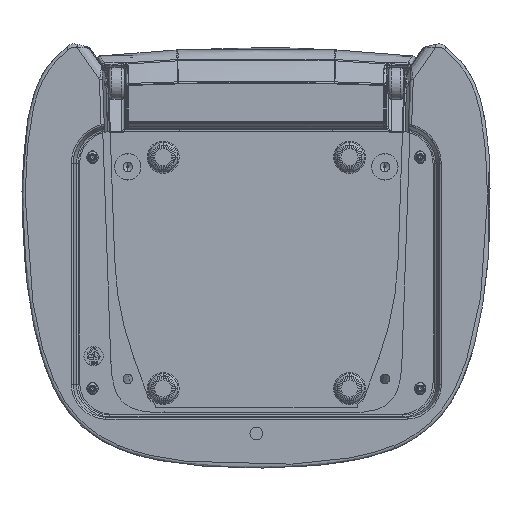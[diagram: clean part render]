
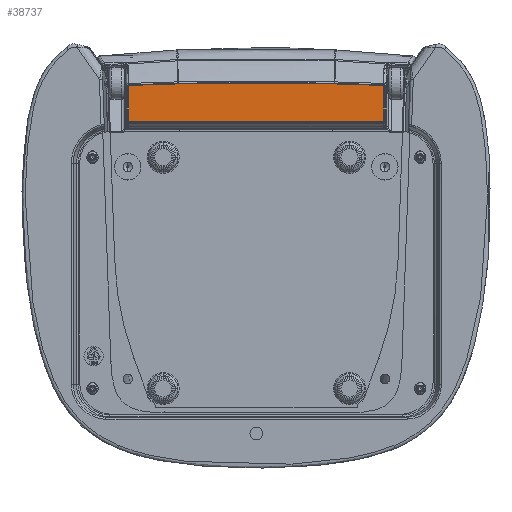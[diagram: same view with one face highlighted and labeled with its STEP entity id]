
A CAD part, front view. The second image highlights one B-rep face of the part: STEP entity #38737.
In plain terms, the highlighted planar face has unit normal (0, -1, 0).
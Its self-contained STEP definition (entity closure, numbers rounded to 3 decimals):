
#183 = VERTEX_POINT ( 'NONE', #42213 ) ;
#1979 = CARTESIAN_POINT ( 'NONE',  ( 198.5, 5., 195.864 ) ) ;
#7015 = CARTESIAN_POINT ( 'NONE',  ( -198.5, 5., 107.539 ) ) ;
#8558 = CARTESIAN_POINT ( 'NONE',  ( 0., 5., 256.571 ) ) ;
#13030 = CARTESIAN_POINT ( 'NONE',  ( 147.648, 5., 253.368 ) ) ;
#13567 = ORIENTED_EDGE ( 'NONE', *, *, #105739, .F. ) ;
#14491 = B_SPLINE_CURVE_WITH_KNOTS ( 'NONE', 3,
 ( #22193, #30118, #59722, #115479 ),
 .UNSPECIFIED., .F., .F.,
 ( 4, 4 ),
 ( 0., 0.088 ),
 .UNSPECIFIED. ) ;
#17353 = LINE ( 'NONE', #54276, #68107 ) ;
#17650 = CARTESIAN_POINT ( 'NONE',  ( -121.337, 5., 254.074 ) ) ;
#19238 = B_SPLINE_CURVE_WITH_KNOTS ( 'NONE', 3,
 ( #76684, #13030, #37934, #74889 ),
 .UNSPECIFIED., .F., .F.,
 ( 4, 4 ),
 ( 0., 7.632 ),
 .UNSPECIFIED. ) ;
#19625 = CARTESIAN_POINT ( 'NONE',  ( 121.337, 5., 254.074 ) ) ;
#21865 = PLANE ( 'NONE',  #91875 ) ;
#22170 = EDGE_CURVE ( 'NONE', #58878, #49174, #63182, .T. ) ;
#22193 = CARTESIAN_POINT ( 'NONE',  ( -122.217, 5., 254.05 ) ) ;
#24173 = CARTESIAN_POINT ( 'NONE',  ( -173.075, 5., 252.545 ) ) ;
#25875 = EDGE_LOOP ( 'NONE', ( #117868, #119622, #54089, #85052, #47523, #99570, #13567, #90957 ) ) ;
#28354 = CARTESIAN_POINT ( 'NONE',  ( 198.5, 5., 251.668 ) ) ;
#30118 = CARTESIAN_POINT ( 'NONE',  ( -121.924, 5., 254.058 ) ) ;
#33694 = LINE ( 'NONE', #7015, #46446 ) ;
#37310 = DIRECTION ( 'NONE',  ( 0., 0., -1. ) ) ;
#37934 = CARTESIAN_POINT ( 'NONE',  ( 173.075, 5., 252.545 ) ) ;
#38737 = ADVANCED_FACE ( 'NONE', ( #66718 ), #21865, .F. ) ;
#42213 = CARTESIAN_POINT ( 'NONE',  ( -198.5, 5., 195.864 ) ) ;
#45782 = CARTESIAN_POINT ( 'NONE',  ( 198.5, 5., 107.539 ) ) ;
#46446 = VECTOR ( 'NONE', #53639, 1000. ) ;
#47523 = ORIENTED_EDGE ( 'NONE', *, *, #68722, .F. ) ;
#49174 = VERTEX_POINT ( 'NONE', #59196 ) ;
#52500 = EDGE_CURVE ( 'NONE', #85216, #90923, #112032, .T. ) ;
#53639 = DIRECTION ( 'NONE',  ( 0., 0., 1. ) ) ;
#53778 = VECTOR ( 'NONE', #37310, 1000. ) ;
#54089 = ORIENTED_EDGE ( 'NONE', *, *, #75661, .F. ) ;
#54276 = CARTESIAN_POINT ( 'NONE',  ( -56.25, 5., 195.864 ) ) ;
#54572 = CARTESIAN_POINT ( 'NONE',  ( -80.9, 5., 255.154 ) ) ;
#55886 = EDGE_CURVE ( 'NONE', #88225, #105498, #19238, .T. ) ;
#58206 = CARTESIAN_POINT ( 'NONE',  ( 0., 5., -9.922 ) ) ;
#58878 = VERTEX_POINT ( 'NONE', #101312 ) ;
#59196 = CARTESIAN_POINT ( 'NONE',  ( -122.217, 5., 254.05 ) ) ;
#59722 = CARTESIAN_POINT ( 'NONE',  ( -121.63, 5., 254.066 ) ) ;
#61903 = VERTEX_POINT ( 'NONE', #1979 ) ;
#62483 = CARTESIAN_POINT ( 'NONE',  ( 122.217, 5., 254.05 ) ) ;
#63182 = B_SPLINE_CURVE_WITH_KNOTS ( 'NONE', 3,
 ( #107174, #24173, #108950, #71391 ),
 .UNSPECIFIED., .F., .F.,
 ( 4, 4 ),
 ( 5.183, 12.815 ),
 .UNSPECIFIED. ) ;
#63354 = LINE ( 'NONE', #45782, #53778 ) ;
#66124 = DIRECTION ( 'NONE',  ( 1., 0., 0. ) ) ;
#66718 = FACE_OUTER_BOUND ( 'NONE', #25875, .T. ) ;
#68107 = VECTOR ( 'NONE', #91285, 1000. ) ;
#68722 = EDGE_CURVE ( 'NONE', #49174, #85216, #14491, .T. ) ;
#70832 = EDGE_CURVE ( 'NONE', #61903, #183, #17353, .T. ) ;
#71391 = CARTESIAN_POINT ( 'NONE',  ( -122.217, 5., 254.05 ) ) ;
#74889 = CARTESIAN_POINT ( 'NONE',  ( 198.5, 5., 251.668 ) ) ;
#75661 = EDGE_CURVE ( 'NONE', #90923, #88225, #76453, .T. ) ;
#76453 = B_SPLINE_CURVE_WITH_KNOTS ( 'NONE', 3,
 ( #117661, #81897, #108561, #62483 ),
 .UNSPECIFIED., .F., .F.,
 ( 4, 4 ),
 ( 0., 0.088 ),
 .UNSPECIFIED. ) ;
#76684 = CARTESIAN_POINT ( 'NONE',  ( 122.217, 5., 254.05 ) ) ;
#81897 = CARTESIAN_POINT ( 'NONE',  ( 121.63, 5., 254.066 ) ) ;
#83663 = CARTESIAN_POINT ( 'NONE',  ( 121.337, 5., 254.074 ) ) ;
#85052 = ORIENTED_EDGE ( 'NONE', *, *, #52500, .F. ) ;
#85216 = VERTEX_POINT ( 'NONE', #86291 ) ;
#86291 = CARTESIAN_POINT ( 'NONE',  ( -121.337, 5., 254.074 ) ) ;
#88225 = VERTEX_POINT ( 'NONE', #91571 ) ;
#90923 = VERTEX_POINT ( 'NONE', #19625 ) ;
#90957 = ORIENTED_EDGE ( 'NONE', *, *, #70832, .F. ) ;
#91285 = DIRECTION ( 'NONE',  ( -1., 0., 0. ) ) ;
#91571 = CARTESIAN_POINT ( 'NONE',  ( 122.217, 5., 254.05 ) ) ;
#91875 = AXIS2_PLACEMENT_3D ( 'NONE', #58206, #113369, #66124 ) ;
#99440 = EDGE_CURVE ( 'NONE', #105498, #61903, #63354, .T. ) ;
#99570 = ORIENTED_EDGE ( 'NONE', *, *, #22170, .F. ) ;
#101265 = CARTESIAN_POINT ( 'NONE',  ( 80.9, 5., 255.154 ) ) ;
#101312 = CARTESIAN_POINT ( 'NONE',  ( -198.5, 5., 251.668 ) ) ;
#105498 = VERTEX_POINT ( 'NONE', #28354 ) ;
#105739 = EDGE_CURVE ( 'NONE', #183, #58878, #33694, .T. ) ;
#107174 = CARTESIAN_POINT ( 'NONE',  ( -198.5, 5., 251.668 ) ) ;
#108561 = CARTESIAN_POINT ( 'NONE',  ( 121.924, 5., 254.058 ) ) ;
#108950 = CARTESIAN_POINT ( 'NONE',  ( -147.648, 5., 253.368 ) ) ;
#112032 = B_SPLINE_CURVE_WITH_KNOTS ( 'NONE', 3,
 ( #17650, #54572, #8558, #101265, #83663 ),
 .UNSPECIFIED., .F., .F.,
 ( 4, 1, 4 ),
 ( 0., 12.135, 24.271 ),
 .UNSPECIFIED. ) ;
#113369 = DIRECTION ( 'NONE',  ( 0., 1., 0. ) ) ;
#115479 = CARTESIAN_POINT ( 'NONE',  ( -121.337, 5., 254.074 ) ) ;
#117661 = CARTESIAN_POINT ( 'NONE',  ( 121.337, 5., 254.074 ) ) ;
#117868 = ORIENTED_EDGE ( 'NONE', *, *, #99440, .F. ) ;
#119622 = ORIENTED_EDGE ( 'NONE', *, *, #55886, .F. ) ;
